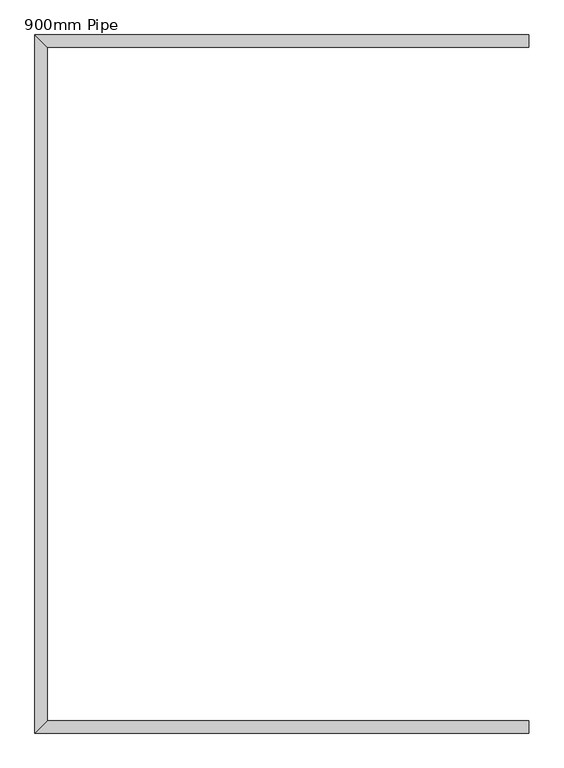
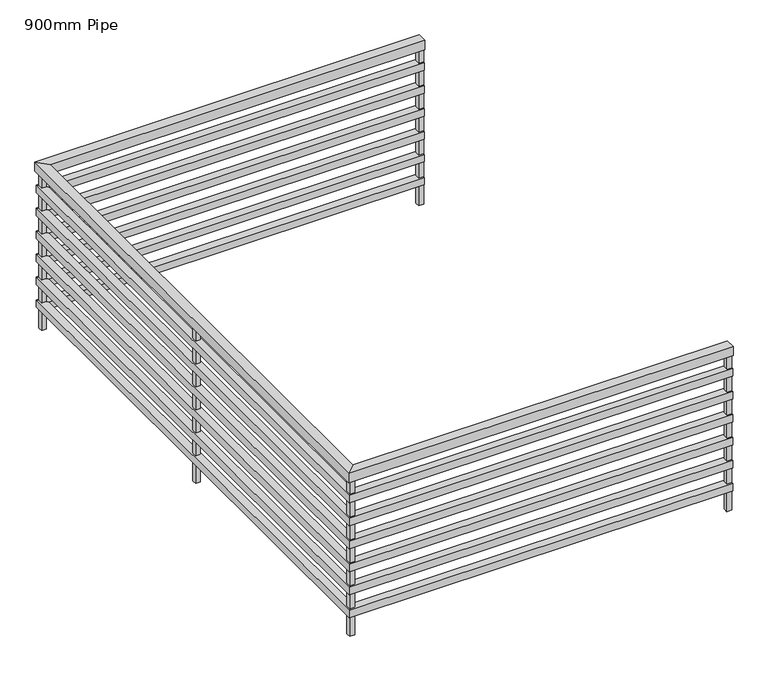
"""IFC4 building model written with IfcOpenShell, lengths in millimetres: railing geometry, 900mm Pipe."""

from ifc_helpers import new_model, si_unit, frame, origin, place, context, project, spatial, polyline, outline, extrude, faceted_brep, source, transform, mapped, element, save


def railing_900mm_pipe_7398d77a(model_context):
    return source(origin(), model_context, "Body", "SolidModel", [
        faceted_brep([(-10656.4352243, 3987.6290541, 12600.0), (-10656.4352243, 3987.6290541, 12550.0), (-10656.4352243, 4037.6290541, 12550.0), (-10656.4352243, 4037.6290541, 12600.0), (-12587.1962165, 3987.6290541, 12600.0), (-12587.1962165, 3987.6290541, 12550.0), (-12637.1962165, 4037.6290541, 12550.0), (-12637.1962165, 4037.6290541, 12600.0), (-12587.1962165, 1287.6290541, 12600.0), (-12587.1962165, 1287.6290541, 12550.0), (-12637.1962165, 1237.6290541, 12550.0), (-12637.1962165, 1237.6290541, 12600.0), (-10656.4352243, 1287.6290541, 12600.0), (-10656.4352243, 1237.6290541, 12600.0), (-10656.4352243, 1237.6290541, 12550.0), (-10656.4352243, 1287.6290541, 12550.0)], [[[0, 1, 2, 3]], [[1, 0, 4, 5]], [[2, 1, 5, 6]], [[3, 2, 6, 7]], [[0, 3, 7, 4]], [[5, 4, 8, 9]], [[6, 5, 9, 10]], [[7, 6, 10, 11]], [[4, 7, 11, 8]], [[12, 13, 14, 15]], [[9, 8, 12, 15]], [[10, 9, 15, 14]], [[11, 10, 14, 13]], [[8, 11, 13, 12]]]),
        faceted_brep([(-10656.4352243, 3992.6290541, 12475.0), (-10656.4352243, 3992.6290541, 12435.0), (-10656.4352243, 4032.6290541, 12435.0), (-10656.4352243, 4032.6290541, 12475.0), (-12592.1962165, 3992.6290541, 12475.0), (-12592.1962165, 3992.6290541, 12435.0), (-12632.1962165, 4032.6290541, 12435.0), (-12632.1962165, 4032.6290541, 12475.0), (-12592.1962165, 1282.6290541, 12475.0), (-12592.1962165, 1282.6290541, 12435.0), (-12632.1962165, 1242.6290541, 12435.0), (-12632.1962165, 1242.6290541, 12475.0), (-10656.4352243, 1282.6290541, 12475.0), (-10656.4352243, 1242.6290541, 12475.0), (-10656.4352243, 1242.6290541, 12435.0), (-10656.4352243, 1282.6290541, 12435.0)], [[[0, 1, 2, 3]], [[1, 0, 4, 5]], [[2, 1, 5, 6]], [[3, 2, 6, 7]], [[0, 3, 7, 4]], [[5, 4, 8, 9]], [[6, 5, 9, 10]], [[7, 6, 10, 11]], [[4, 7, 11, 8]], [[12, 13, 14, 15]], [[9, 8, 12, 15]], [[10, 9, 15, 14]], [[11, 10, 14, 13]], [[8, 11, 13, 12]]]),
        faceted_brep([(-10656.4352243, 3992.6290541, 12350.0), (-10656.4352243, 3992.6290541, 12310.0), (-10656.4352243, 4032.6290541, 12310.0), (-10656.4352243, 4032.6290541, 12350.0), (-12592.1962165, 3992.6290541, 12350.0), (-12592.1962165, 3992.6290541, 12310.0), (-12632.1962165, 4032.6290541, 12310.0), (-12632.1962165, 4032.6290541, 12350.0), (-12592.1962165, 1282.6290541, 12350.0), (-12592.1962165, 1282.6290541, 12310.0), (-12632.1962165, 1242.6290541, 12310.0), (-12632.1962165, 1242.6290541, 12350.0), (-10656.4352243, 1282.6290541, 12350.0), (-10656.4352243, 1242.6290541, 12350.0), (-10656.4352243, 1242.6290541, 12310.0), (-10656.4352243, 1282.6290541, 12310.0)], [[[0, 1, 2, 3]], [[1, 0, 4, 5]], [[2, 1, 5, 6]], [[3, 2, 6, 7]], [[0, 3, 7, 4]], [[5, 4, 8, 9]], [[6, 5, 9, 10]], [[7, 6, 10, 11]], [[4, 7, 11, 8]], [[12, 13, 14, 15]], [[9, 8, 12, 15]], [[10, 9, 15, 14]], [[11, 10, 14, 13]], [[8, 11, 13, 12]]]),
        faceted_brep([(-10656.4352243, 3992.6290541, 12225.0), (-10656.4352243, 3992.6290541, 12185.0), (-10656.4352243, 4032.6290541, 12185.0), (-10656.4352243, 4032.6290541, 12225.0), (-12592.1962165, 3992.6290541, 12225.0), (-12592.1962165, 3992.6290541, 12185.0), (-12632.1962165, 4032.6290541, 12185.0), (-12632.1962165, 4032.6290541, 12225.0), (-12592.1962165, 1282.6290541, 12225.0), (-12592.1962165, 1282.6290541, 12185.0), (-12632.1962165, 1242.6290541, 12185.0), (-12632.1962165, 1242.6290541, 12225.0), (-10656.4352243, 1282.6290541, 12225.0), (-10656.4352243, 1242.6290541, 12225.0), (-10656.4352243, 1242.6290541, 12185.0), (-10656.4352243, 1282.6290541, 12185.0)], [[[0, 1, 2, 3]], [[1, 0, 4, 5]], [[2, 1, 5, 6]], [[3, 2, 6, 7]], [[0, 3, 7, 4]], [[5, 4, 8, 9]], [[6, 5, 9, 10]], [[7, 6, 10, 11]], [[4, 7, 11, 8]], [[12, 13, 14, 15]], [[9, 8, 12, 15]], [[10, 9, 15, 14]], [[11, 10, 14, 13]], [[8, 11, 13, 12]]]),
        faceted_brep([(-10656.4352243, 3992.6290541, 12100.0), (-10656.4352243, 3992.6290541, 12060.0), (-10656.4352243, 4032.6290541, 12060.0), (-10656.4352243, 4032.6290541, 12100.0), (-12592.1962165, 3992.6290541, 12100.0), (-12592.1962165, 3992.6290541, 12060.0), (-12632.1962165, 4032.6290541, 12060.0), (-12632.1962165, 4032.6290541, 12100.0), (-12592.1962165, 1282.6290541, 12100.0), (-12592.1962165, 1282.6290541, 12060.0), (-12632.1962165, 1242.6290541, 12060.0), (-12632.1962165, 1242.6290541, 12100.0), (-10656.4352243, 1282.6290541, 12100.0), (-10656.4352243, 1242.6290541, 12100.0), (-10656.4352243, 1242.6290541, 12060.0), (-10656.4352243, 1282.6290541, 12060.0)], [[[0, 1, 2, 3]], [[1, 0, 4, 5]], [[2, 1, 5, 6]], [[3, 2, 6, 7]], [[0, 3, 7, 4]], [[5, 4, 8, 9]], [[6, 5, 9, 10]], [[7, 6, 10, 11]], [[4, 7, 11, 8]], [[12, 13, 14, 15]], [[9, 8, 12, 15]], [[10, 9, 15, 14]], [[11, 10, 14, 13]], [[8, 11, 13, 12]]]),
        faceted_brep([(-10656.4352243, 3992.6290541, 11975.0), (-10656.4352243, 3992.6290541, 11935.0), (-10656.4352243, 4032.6290541, 11935.0), (-10656.4352243, 4032.6290541, 11975.0), (-12592.1962165, 3992.6290541, 11975.0), (-12592.1962165, 3992.6290541, 11935.0), (-12632.1962165, 4032.6290541, 11935.0), (-12632.1962165, 4032.6290541, 11975.0), (-12592.1962165, 1282.6290541, 11975.0), (-12592.1962165, 1282.6290541, 11935.0), (-12632.1962165, 1242.6290541, 11935.0), (-12632.1962165, 1242.6290541, 11975.0), (-10656.4352243, 1282.6290541, 11975.0), (-10656.4352243, 1242.6290541, 11975.0), (-10656.4352243, 1242.6290541, 11935.0), (-10656.4352243, 1282.6290541, 11935.0)], [[[0, 1, 2, 3]], [[1, 0, 4, 5]], [[2, 1, 5, 6]], [[3, 2, 6, 7]], [[0, 3, 7, 4]], [[5, 4, 8, 9]], [[6, 5, 9, 10]], [[7, 6, 10, 11]], [[4, 7, 11, 8]], [[12, 13, 14, 15]], [[9, 8, 12, 15]], [[10, 9, 15, 14]], [[11, 10, 14, 13]], [[8, 11, 13, 12]]]),
        faceted_brep([(-10656.4352243, 3992.6290541, 11850.0), (-10656.4352243, 3992.6290541, 11810.0), (-10656.4352243, 4032.6290541, 11810.0), (-10656.4352243, 4032.6290541, 11850.0), (-12592.1962165, 3992.6290541, 11850.0), (-12592.1962165, 3992.6290541, 11810.0), (-12632.1962165, 4032.6290541, 11810.0), (-12632.1962165, 4032.6290541, 11850.0), (-12592.1962165, 1282.6290541, 11850.0), (-12592.1962165, 1282.6290541, 11810.0), (-12632.1962165, 1242.6290541, 11810.0), (-12632.1962165, 1242.6290541, 11850.0), (-10656.4352243, 1282.6290541, 11850.0), (-10656.4352243, 1242.6290541, 11850.0), (-10656.4352243, 1242.6290541, 11810.0), (-10656.4352243, 1282.6290541, 11810.0)], [[[0, 1, 2, 3]], [[1, 0, 4, 5]], [[2, 1, 5, 6]], [[3, 2, 6, 7]], [[0, 3, 7, 4]], [[5, 4, 8, 9]], [[6, 5, 9, 10]], [[7, 6, 10, 11]], [[4, 7, 11, 8]], [[12, 13, 14, 15]], [[9, 8, 12, 15]], [[10, 9, 15, 14]], [[11, 10, 14, 13]], [[8, 11, 13, 12]]]),
        extrude(outline(polyline([(-12624.6962165, 2650.1290541), (-12599.6962165, 2650.1290541), (-12599.6962165, 2625.1290541), (-12624.6962165, 2625.1290541), (-12624.6962165, 2650.1290541)])), frame((0.0, 0.0, 11700.0), z_axis=(0.0, 0.0, 1.0), x_axis=(1.0, 0.0, 0.0)), (0.0, 0.0, 1.0), 850.0),
        extrude(outline(polyline([(-12624.6962165, 1275.1290541), (-12599.6962165, 1275.1290541), (-12599.6962165, 1250.1290541), (-12624.6962165, 1250.1290541), (-12624.6962165, 1275.1290541)])), frame((0.0, 0.0, 11700.0), z_axis=(0.0, 0.0, 1.0), x_axis=(1.0, 0.0, 0.0)), (0.0, 0.0, 1.0), 850.0),
        extrude(outline(polyline([(-12599.6962165, 4025.1290541), (-12599.6962165, 4000.1290541), (-12624.6962165, 4000.1290541), (-12624.6962165, 4025.1290541), (-12599.6962165, 4025.1290541)])), frame((0.0, 0.0, 11700.0), z_axis=(0.0, 0.0, 1.0), x_axis=(1.0, 0.0, 0.0)), (0.0, 0.0, 1.0), 850.0),
        extrude(outline(polyline([(-10681.4352243, 1250.1290541), (-10681.4352243, 1275.1290541), (-10656.4352243, 1275.1290541), (-10656.4352243, 1250.1290541), (-10681.4352243, 1250.1290541)])), frame((0.0, 0.0, 11700.0), z_axis=(0.0, 0.0, 1.0), x_axis=(1.0, 0.0, 0.0)), (0.0, 0.0, 1.0), 850.0),
        extrude(outline(polyline([(-10656.4352243, 4025.1290541), (-10656.4352243, 4000.1290541), (-10681.4352243, 4000.1290541), (-10681.4352243, 4025.1290541), (-10656.4352243, 4025.1290541)])), frame((0.0, 0.0, 11700.0), z_axis=(0.0, 0.0, 1.0), x_axis=(1.0, 0.0, 0.0)), (0.0, 0.0, 1.0), 850.0),
    ])


if __name__ == "__main__":
    model = new_model("IFC4")
    model_context = context("Model", 3, world=origin())
    ifc_project = project(units=[si_unit("LENGTHUNIT", "METRE", prefix="MILLI")], contexts=[model_context])
    site = spatial("IfcSite", under=ifc_project)
    building = spatial("IfcBuilding", under=site)
    placement = place(None, origin())
    railing_900mm_pipe_shape = railing_900mm_pipe_7398d77a(model_context)
    element("IfcRailing", 1, ObjectType="900mm Pipe", at=placement, inside=building, context=model_context, shape_type="MappedRepresentation", body=[
        mapped(railing_900mm_pipe_shape, transform((0.0, 0.0, 0.0), x_axis=(1.0, 0.0, 0.0), y_axis=(0.0, 1.0, 0.0), z_axis=(0.0, 0.0, 1.0))),
    ])
    save(model, "model.ifc")
